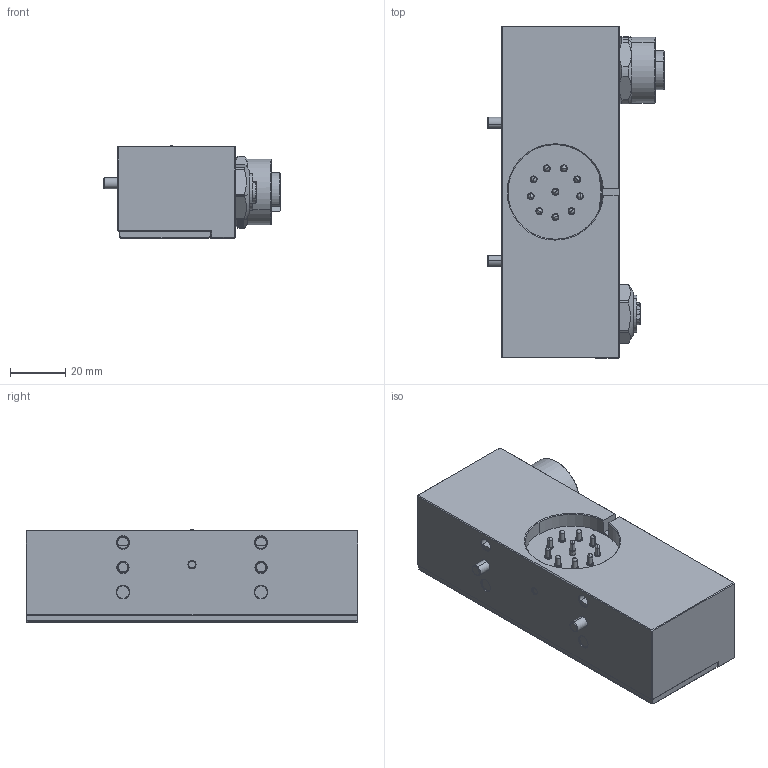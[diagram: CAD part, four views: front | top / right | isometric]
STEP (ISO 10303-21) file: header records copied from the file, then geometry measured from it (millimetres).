
FILE_DESCRIPTION (( 'STEP AP214' ), '1' );
FILE_NAME ('QCSM-05G7-8-04M12-10G.STEP', '2024-10-10T06:09:53', ( '' ), ( '' ), 'SwSTEP 2.0', 'SolidWorks 2018', '' );
FILE_SCHEMA (( 'AUTOMOTIVE_DESIGN' ));
Length unit declared in the file: millimetre
Products named in the file (28): QCSM-05G7-8-04M12-10G.sldasm-Part-23; QCSM-05G7-8-04M12-10G.sldasm-Part-22; QCSM-05G7-8-04M12-10G.sldasm-Part-21; QCSM-05G7-8-04M12-10G.sldasm-Part-14; QCSM-05G7-8-04M12-10G.sldasm-Part-27; QCSM-05G7-8-04M12-10G.sldasm-Part-19; QCSM-05G7-8-04M12-10G.sldasm-Part-1; QCSM-05G7-8-04M12-10G.sldasm-Part-10; QCSM-05G7-8-04M12-10G.sldasm-Part-13; QCSM-05G7-8-04M12-10G; QCSM-05G7-8-04M12-10G.sldasm-Part-18; QCSM-05G7-8-04M12-10G.sldasm-Part-12; QCSM-05G7-8-04M12-10G.sldasm-Part-9; QCSM-05G7-8-04M12-10G.sldasm-Part-15; QCSM-05G7-8-04M12-10G.sldasm-Part-2; QCSM-05G7-8-04M12-10G.sldasm-Part-16; QCSM-05G7-8-04M12-10G.sldasm-Part-11; QCSM-05G7-8-04M12-10G.sldasm-Part-8; QCSM-05G7-8-04M12-10G.sldasm-Part-24; QCSM-05G7-8-04M12-10G.sldasm-Part-7; QCSM-05G7-8-04M12-10G.sldasm-Part-25; QCSM-05G7-8-04M12-10G.sldasm-Part-6; QCSM-05G7-8-04M12-10G.sldasm-Part-26; QCSM-05G7-8-04M12-10G.sldasm-Part-17; QCSM-05G7-8-04M12-10G.sldasm-Part-4; QCSM-05G7-8-04M12-10G.sldasm-Part-3; QCSM-05G7-8-04M12-10G.sldasm-Part-5; QCSM-05G7-8-04M12-10G.sldasm-Part-20
Assembly tree (27 placements, depth 2):
  QCSM-05G7-8-04M12-10G
    QCSM-05G7-8-04M12-10G.sldasm-Part-1
    QCSM-05G7-8-04M12-10G.sldasm-Part-2
    QCSM-05G7-8-04M12-10G.sldasm-Part-3
    QCSM-05G7-8-04M12-10G.sldasm-Part-4
    QCSM-05G7-8-04M12-10G.sldasm-Part-5
    QCSM-05G7-8-04M12-10G.sldasm-Part-6
    QCSM-05G7-8-04M12-10G.sldasm-Part-7
    QCSM-05G7-8-04M12-10G.sldasm-Part-8
    QCSM-05G7-8-04M12-10G.sldasm-Part-9
    QCSM-05G7-8-04M12-10G.sldasm-Part-10
    QCSM-05G7-8-04M12-10G.sldasm-Part-11
    QCSM-05G7-8-04M12-10G.sldasm-Part-12
    QCSM-05G7-8-04M12-10G.sldasm-Part-13
    QCSM-05G7-8-04M12-10G.sldasm-Part-14
    QCSM-05G7-8-04M12-10G.sldasm-Part-15
    QCSM-05G7-8-04M12-10G.sldasm-Part-16
    QCSM-05G7-8-04M12-10G.sldasm-Part-17
    QCSM-05G7-8-04M12-10G.sldasm-Part-18
    QCSM-05G7-8-04M12-10G.sldasm-Part-19
    QCSM-05G7-8-04M12-10G.sldasm-Part-20
    QCSM-05G7-8-04M12-10G.sldasm-Part-21
    QCSM-05G7-8-04M12-10G.sldasm-Part-22
    QCSM-05G7-8-04M12-10G.sldasm-Part-23
    QCSM-05G7-8-04M12-10G.sldasm-Part-24
    QCSM-05G7-8-04M12-10G.sldasm-Part-25
    QCSM-05G7-8-04M12-10G.sldasm-Part-26
    QCSM-05G7-8-04M12-10G.sldasm-Part-27
Bounding box: 63.95 x 120.2 x 33.5 mm (x, y, z)
Volume: 169369 mm3; surface area: 38930.7 mm2
Topology: 27 solids, 31 shells, 1767 faces, 4501 edges, 2824 vertices
Faces by surface type: plane 841, cylinder 394, cone 267, torus 153, bspline 92, sphere 20
Entity records: 71074 total; most frequent: CARTESIAN_POINT 21261, ORIENTED_EDGE 8854, DIRECTION 8490, EDGE_CURVE 4427, AXIS2_PLACEMENT_3D 3105, VERTEX_POINT 2814, LINE 2280, VECTOR 2280
